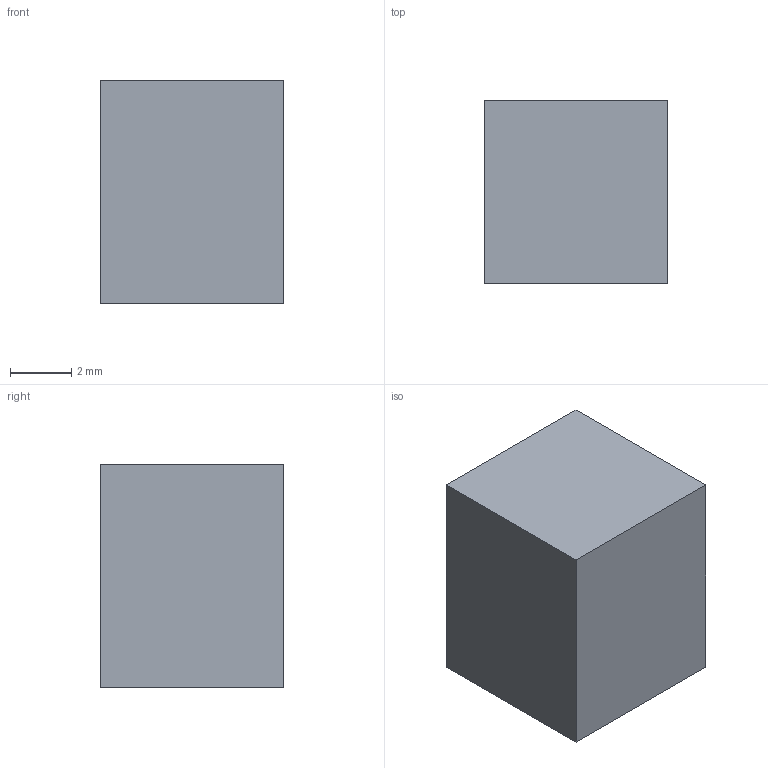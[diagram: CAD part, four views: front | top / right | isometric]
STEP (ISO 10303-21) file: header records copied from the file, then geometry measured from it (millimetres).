
FILE_DESCRIPTION(('Tactile switch 6x6 mm THT, projected plunger 7.3 mm (Omron B3F-1050 class) -- body envelope 7.30 mm tall (Omron B3F-1052, projected plunger)'),'2;1');
FILE_NAME('SW_PUSH_6mm_H7.3mm','2026-09-08T00:00:00',('TI One Voice research programme'),(''),'EEG-CAR-01 step_write.py','','CC BY-SA 4.0');
FILE_SCHEMA(('AUTOMOTIVE_DESIGN { 1 0 10303 214 1 1 1 1 }'));
Length unit declared in the file: millimetre
Products named in the file (1): SW_PUSH_6mm_H7.3mm
Bounding box: 6 x 6 x 7.3 mm (x, y, z)
Volume: 262.8 mm3; surface area: 247.2 mm2
Topology: 1 solids, 1 shells, 6 faces, 12 edges, 8 vertices
Faces by surface type: plane 6
Entity records: 67 total; most frequent: DIRECTION 14, CARTESIAN_POINT 9, AXIS2_PLACEMENT_3D 7, POLY_LOOP 6, FACE_OUTER_BOUND 6, PLANE 6, FACE_SURFACE 6, UNCERTAINTY_MEASURE_WITH_UNIT 1
